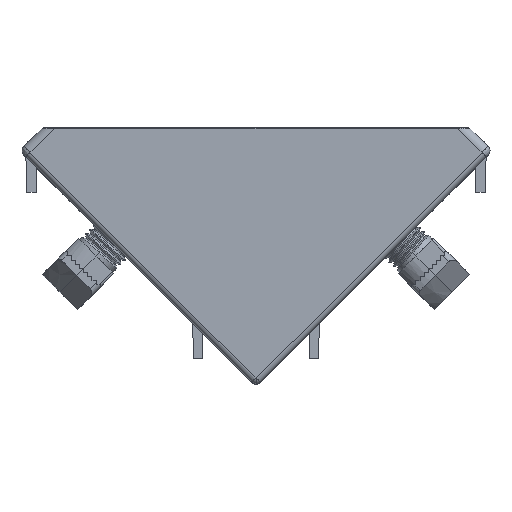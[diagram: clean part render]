
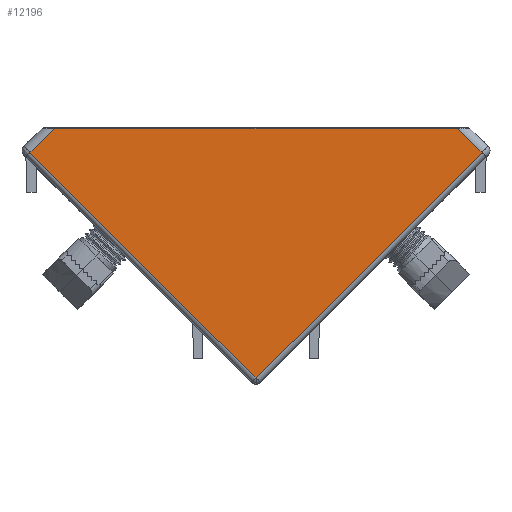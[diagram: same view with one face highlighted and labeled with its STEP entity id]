
A CAD part, top view. The second image highlights one B-rep face of the part: STEP entity #12196.
In plain terms, the highlighted planar face has unit normal (0, -0.007, 1).
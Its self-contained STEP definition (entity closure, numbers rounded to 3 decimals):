
#282 = CARTESIAN_POINT ( 'NONE',  ( -36.165, 41.458, 29.022 ) ) ;
#429 = CARTESIAN_POINT ( 'NONE',  ( 38.545, 39.16, 29.006 ) ) ;
#471 = ORIENTED_EDGE ( 'NONE', *, *, #12990, .F. ) ;
#472 = CARTESIAN_POINT ( 'NONE',  ( 8.815, 9.494, 28.799 ) ) ;
#532 = CARTESIAN_POINT ( 'NONE',  ( 38.545, 39.16, 29.006 ) ) ;
#809 = CARTESIAN_POINT ( 'NONE',  ( 37.129, 37.747, 28.996 ) ) ;
#947 = CARTESIAN_POINT ( 'NONE',  ( 23.916, 24.562, 28.904 ) ) ;
#1212 = CARTESIAN_POINT ( 'NONE',  ( -38.545, 39.16, 29.006 ) ) ;
#1564 = EDGE_CURVE ( 'NONE', #5804, #3929, #9521, .T. ) ;
#1974 = CARTESIAN_POINT ( 'NONE',  ( 2.938, 3.63, 28.758 ) ) ;
#2285 = B_SPLINE_CURVE_WITH_KNOTS ( 'NONE', 5,
 ( #8148, #5066, #8271, #12416, #6261, #13613 ),
 .UNSPECIFIED., .F., .F.,
 ( 6, 6 ),
 ( 0., 1. ),
 .UNSPECIFIED. ) ;
#2395 = CARTESIAN_POINT ( 'NONE',  ( -14.629, 15.296, 28.839 ) ) ;
#2904 = CARTESIAN_POINT ( 'NONE',  ( 31.466, 32.097, 28.957 ) ) ;
#3328 = EDGE_LOOP ( 'NONE', ( #471, #4460, #13878, #13830, #11458 ) ) ;
#3452 = CARTESIAN_POINT ( 'NONE',  ( -5.191, 5.878, 28.774 ) ) ;
#3929 = VERTEX_POINT ( 'NONE', #429 ) ;
#3955 = FACE_OUTER_BOUND ( 'NONE', #3328, .T. ) ;
#4297 = CARTESIAN_POINT ( 'NONE',  ( -0.472, 1.169, 28.741 ) ) ;
#4404 = CARTESIAN_POINT ( 'NONE',  ( -37.103, 40.553, 29.016 ) ) ;
#4428 = CARTESIAN_POINT ( 'NONE',  ( -22.18, 22.83, 28.892 ) ) ;
#4460 = ORIENTED_EDGE ( 'NONE', *, *, #1564, .F. ) ;
#4590 = CARTESIAN_POINT ( 'NONE',  ( 34.938, 42.643, 29.03 ) ) ;
#4946 = PLANE ( 'NONE',  #7248 ) ;
#5066 = CARTESIAN_POINT ( 'NONE',  ( 20.573, 43.27, 29.035 ) ) ;
#5098 = CARTESIAN_POINT ( 'NONE',  ( 35.241, 35.864, 28.983 ) ) ;
#5660 = CARTESIAN_POINT ( 'NONE',  ( 0., 0.698, 28.737 ) ) ;
#5804 = VERTEX_POINT ( 'NONE', #10904 ) ;
#5809 = CARTESIAN_POINT ( 'NONE',  ( 35.587, 42.016, 29.026 ) ) ;
#5905 = CARTESIAN_POINT ( 'NONE',  ( 38.545, 39.16, 29.006 ) ) ;
#6076 = B_SPLINE_CURVE_WITH_KNOTS ( 'NONE', 3,
 ( #10906, #4297, #13073, #13851, #11744, #3452, #6503, #2395, #4428, #6583, #7741, #8729, #1212 ),
 .UNSPECIFIED., .F., .F.,
 ( 4, 3, 3, 3, 4 ),
 ( 0., 0.037, 0.184, 0.771, 1. ),
 .UNSPECIFIED. ) ;
#6261 = CARTESIAN_POINT ( 'NONE',  ( -20.573, 43.27, 29.035 ) ) ;
#6313 = EDGE_CURVE ( 'NONE', #12090, #11095, #12343, .T. ) ;
#6503 = CARTESIAN_POINT ( 'NONE',  ( -7.079, 7.762, 28.787 ) ) ;
#6556 = CARTESIAN_POINT ( 'NONE',  ( -38.064, 39.624, 29.009 ) ) ;
#6583 = CARTESIAN_POINT ( 'NONE',  ( -29.73, 30.365, 28.945 ) ) ;
#6621 = CARTESIAN_POINT ( 'NONE',  ( -35.227, 42.364, 29.028 ) ) ;
#6954 = CARTESIAN_POINT ( 'NONE',  ( 38.073, 38.689, 29.003 ) ) ;
#7003 = DIRECTION ( 'NONE',  ( 0., 1., 0.007 ) ) ;
#7248 = AXIS2_PLACEMENT_3D ( 'NONE', #9243, #8236, #7003 ) ;
#7280 = EDGE_CURVE ( 'NONE', #5804, #11095, #2285, .T. ) ;
#7741 = CARTESIAN_POINT ( 'NONE',  ( -32.668, 33.296, 28.965 ) ) ;
#7969 = CARTESIAN_POINT ( 'NONE',  ( 37.775, 39.903, 29.011 ) ) ;
#7983 = CARTESIAN_POINT ( 'NONE',  ( 0., 0.698, 28.737 ) ) ;
#8148 = CARTESIAN_POINT ( 'NONE',  ( 34.289, 43.27, 29.035 ) ) ;
#8236 = DIRECTION ( 'NONE',  ( 0., 0.007, -1. ) ) ;
#8271 = CARTESIAN_POINT ( 'NONE',  ( 6.858, 43.27, 29.035 ) ) ;
#8408 = B_SPLINE_CURVE_WITH_KNOTS ( 'NONE', 3,
 ( #5905, #6954, #13651, #809, #5098, #11672, #2904, #947, #8446, #472, #9121, #1974, #7983 ),
 .UNSPECIFIED., .F., .F.,
 ( 4, 3, 3, 3, 4 ),
 ( 0., 0.037, 0.184, 0.771, 1. ),
 .UNSPECIFIED. ) ;
#8446 = CARTESIAN_POINT ( 'NONE',  ( 16.365, 17.028, 28.851 ) ) ;
#8729 = CARTESIAN_POINT ( 'NONE',  ( -35.606, 36.228, 28.985 ) ) ;
#8947 = CARTESIAN_POINT ( 'NONE',  ( -38.545, 39.16, 29.006 ) ) ;
#9121 = CARTESIAN_POINT ( 'NONE',  ( 5.876, 6.562, 28.778 ) ) ;
#9243 = CARTESIAN_POINT ( 'NONE',  ( -55.197, -8.54, 28.673 ) ) ;
#9521 = B_SPLINE_CURVE_WITH_KNOTS ( 'NONE', 3,
 ( #13306, #4590, #5809, #13160, #12172, #7969, #532 ),
 .UNSPECIFIED., .F., .F.,
 ( 4, 3, 4 ),
 ( 0., 0.458, 1. ),
 .UNSPECIFIED. ) ;
#9912 = CARTESIAN_POINT ( 'NONE',  ( -38.545, 39.16, 29.006 ) ) ;
#10904 = CARTESIAN_POINT ( 'NONE',  ( 34.289, 43.27, 29.035 ) ) ;
#10906 = CARTESIAN_POINT ( 'NONE',  ( 0., 0.698, 28.737 ) ) ;
#11095 = VERTEX_POINT ( 'NONE', #11396 ) ;
#11396 = CARTESIAN_POINT ( 'NONE',  ( -34.289, 43.27, 29.035 ) ) ;
#11458 = ORIENTED_EDGE ( 'NONE', *, *, #13079, .F. ) ;
#11672 = CARTESIAN_POINT ( 'NONE',  ( 33.354, 33.98, 28.97 ) ) ;
#11744 = CARTESIAN_POINT ( 'NONE',  ( -3.303, 3.995, 28.76 ) ) ;
#12006 = VERTEX_POINT ( 'NONE', #5660 ) ;
#12090 = VERTEX_POINT ( 'NONE', #8947 ) ;
#12172 = CARTESIAN_POINT ( 'NONE',  ( 37.006, 40.646, 29.016 ) ) ;
#12196 = ADVANCED_FACE ( 'NONE', ( #3955 ), #4946, .F. ) ;
#12343 = B_SPLINE_CURVE_WITH_KNOTS ( 'NONE', 3,
 ( #9912, #6556, #12842, #4404, #282, #6621, #13122 ),
 .UNSPECIFIED., .F., .F.,
 ( 4, 3, 4 ),
 ( 0., 0.339, 1. ),
 .UNSPECIFIED. ) ;
#12416 = CARTESIAN_POINT ( 'NONE',  ( -6.858, 43.27, 29.035 ) ) ;
#12842 = CARTESIAN_POINT ( 'NONE',  ( -37.583, 40.088, 29.012 ) ) ;
#12990 = EDGE_CURVE ( 'NONE', #3929, #12006, #8408, .T. ) ;
#13073 = CARTESIAN_POINT ( 'NONE',  ( -0.944, 1.64, 28.744 ) ) ;
#13079 = EDGE_CURVE ( 'NONE', #12006, #12090, #6076, .T. ) ;
#13122 = CARTESIAN_POINT ( 'NONE',  ( -34.289, 43.27, 29.035 ) ) ;
#13160 = CARTESIAN_POINT ( 'NONE',  ( 36.237, 41.389, 29.022 ) ) ;
#13306 = CARTESIAN_POINT ( 'NONE',  ( 34.289, 43.27, 29.035 ) ) ;
#13613 = CARTESIAN_POINT ( 'NONE',  ( -34.289, 43.27, 29.035 ) ) ;
#13651 = CARTESIAN_POINT ( 'NONE',  ( 37.601, 38.218, 28.999 ) ) ;
#13830 = ORIENTED_EDGE ( 'NONE', *, *, #6313, .F. ) ;
#13851 = CARTESIAN_POINT ( 'NONE',  ( -1.416, 2.111, 28.747 ) ) ;
#13878 = ORIENTED_EDGE ( 'NONE', *, *, #7280, .T. ) ;
